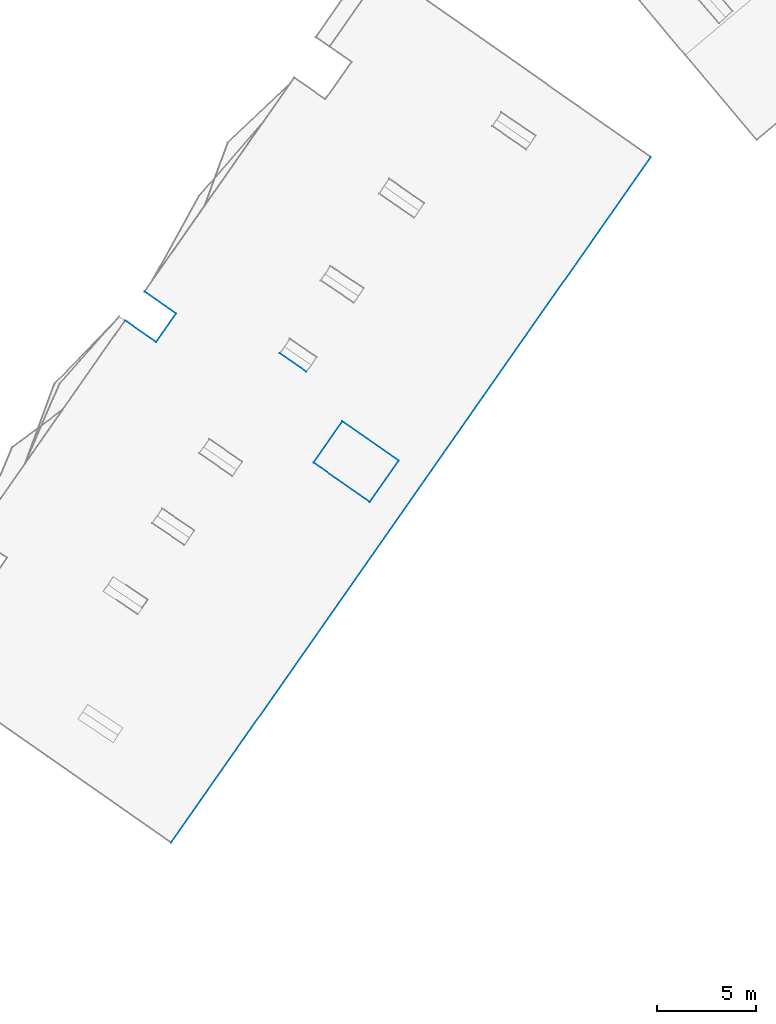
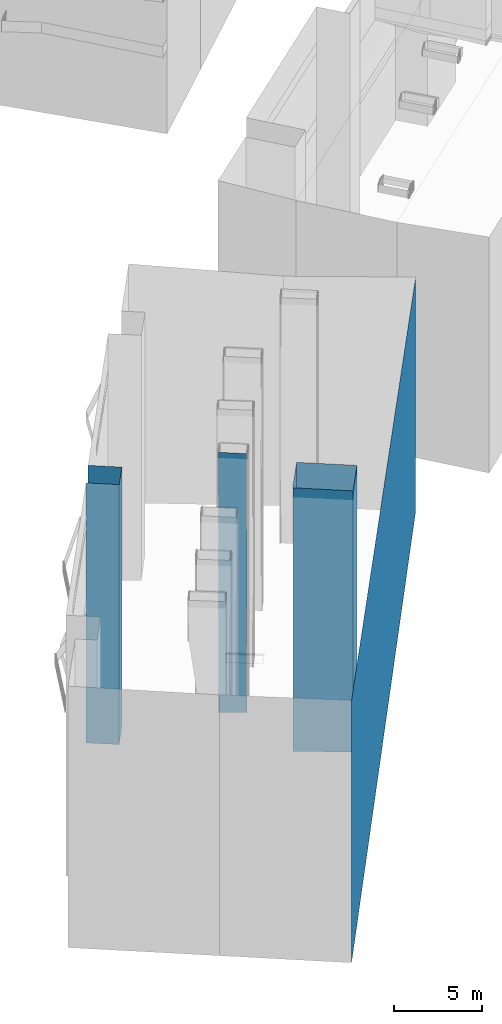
# Not in any storey, part 9 of 136: 9 walls.
"""IFC4 building model written with IfcOpenShell, lengths in metres."""

from ifc_helpers import new_model, entity, si_unit, converted_unit, origin, place, context, subcontext, project, spatial, face_set, surface_model, element, save


model = new_model("IFC4")

# Units and contexts
model_context = context("Model", 3, precision=1e-05, world=origin())
body_context = subcontext(model_context, "Body", "Model", "MODEL_VIEW")
ifc_project = project(units=[converted_unit("PLANEANGLEUNIT", "DEGREE", entity("IfcRatioMeasure", 0.0174532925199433), si_unit("PLANEANGLEUNIT", "RADIAN"), dimensions=[0, 0, 0, 0, 0, 0, 0]), si_unit("AREAUNIT", "SQUARE_METRE"), si_unit("LENGTHUNIT", "METRE")], contexts=[model_context])

# Site, building
site_placement = place(None, origin())
site = spatial("IfcSite", under=ifc_project, at=site_placement, Name="_site")
building_placement = place(site_placement, origin())
building = spatial("IfcBuilding", under=site, at=building_placement, Name="_building")

# Walls
wall_1_placement = place(building_placement, origin())
element("IfcWall", 1, at=wall_1_placement, inside=building, Name="Wall", PredefinedType="NOTDEFINED", context=body_context, shape_type="SurfaceModel", body=[
    surface_model("IfcFaceBasedSurfaceModel", [(16.56, 34.73, 54.34), (15.22, 35.66, 54.34), (15.22, 35.66, 36.253), (16.56, 34.73, 36.323)], [face_set([[[0, 1, 2, 3]]])]),
])
wall_2_placement = place(building_placement, origin())
element("IfcWall", 2, at=wall_2_placement, inside=building, Name="Wall", PredefinedType="NOTDEFINED", context=body_context, shape_type="SurfaceModel", body=[
    surface_model("IfcFaceBasedSurfaceModel", [(21.2, 30.26, 54.61), (19.74, 28.18, 54.61), (19.74, 28.18, 36.433), (21.2, 30.26, 36.546)], [face_set([[[0, 1, 2, 3]]])]),
])
wall_3_placement = place(building_placement, origin())
element("IfcWall", 3, at=wall_3_placement, inside=building, Name="Wall", PredefinedType="NOTDEFINED", context=body_context, shape_type="SurfaceModel", body=[
    surface_model("IfcFaceBasedSurfaceModel", [(18.37, 32.24, 54.61), (21.2, 30.26, 54.61), (21.2, 30.26, 36.546), (18.37, 32.24, 36.394)], [face_set([[[0, 1, 2, 3]]])]),
])
wall_4_placement = place(building_placement, origin())
element("IfcWall", 4, at=wall_4_placement, inside=building, Name="Wall", PredefinedType="NOTDEFINED", context=body_context, shape_type="SurfaceModel", body=[
    surface_model("IfcFaceBasedSurfaceModel", [(16.92, 30.16, 54.61), (18.37, 32.24, 54.61), (18.37, 32.24, 36.394), (16.92, 30.16, 36.277)], [face_set([[[0, 1, 2, 3]]])]),
])
wall_5_placement = place(building_placement, origin())
element("IfcWall", 5, at=wall_5_placement, inside=building, Name="Wall", PredefinedType="NOTDEFINED", context=body_context, shape_type="SurfaceModel", body=[
    surface_model("IfcFaceBasedSurfaceModel", [(19.74, 28.18, 54.61), (16.92, 30.16, 54.61), (16.92, 30.16, 36.277), (19.74, 28.18, 36.433)], [face_set([[[0, 1, 2, 3]]])]),
])
wall_6_placement = place(building_placement, origin())
element("IfcWall", 6, at=wall_6_placement, inside=building, Name="Wall", PredefinedType="NOTDEFINED", context=body_context, shape_type="SurfaceModel", body=[
    surface_model("IfcFaceBasedSurfaceModel", [(33.88, 45.53, 54.01), (9.75, 11.04, 53.93), (9.75, 11.04, 35.673), (33.88, 45.53, 37.708)], [face_set([[[0, 1, 2, 3]]])]),
])
wall_7_placement = place(building_placement, origin())
element("IfcWall", 7, at=wall_7_placement, inside=building, Name="Wall", PredefinedType="NOTDEFINED", context=body_context, shape_type="SurfaceModel", body=[
    surface_model("IfcFaceBasedSurfaceModel", [(10.0, 37.65, 53.93), (8.42, 38.76, 53.93), (8.42, 38.76, 35.843), (10.0, 37.65, 35.93)], [face_set([[[0, 1, 2, 3]]])]),
])
wall_8_placement = place(building_placement, origin())
element("IfcWall", 8, at=wall_8_placement, inside=building, Name="Wall", PredefinedType="NOTDEFINED", context=body_context, shape_type="SurfaceModel", body=[
    surface_model("IfcFaceBasedSurfaceModel", [(7.44, 37.311, 53.93), (9.0, 36.22, 53.93), (9.0, 36.22, 35.846), (7.44, 37.311, 35.839)], [face_set([[[0, 1, 2, 3]]])]),
])
wall_9_placement = place(building_placement, origin())
element("IfcWall", 9, at=wall_9_placement, inside=building, Name="Wall", PredefinedType="NOTDEFINED", context=body_context, shape_type="SurfaceModel", body=[
    surface_model("IfcFaceBasedSurfaceModel", [(9.0, 36.22, 53.93), (10.0, 37.65, 53.93), (10.0, 37.65, 35.93), (9.0, 36.22, 35.846)], [face_set([[[0, 1, 2, 3]]])]),
])

save(model, "model.ifc")
